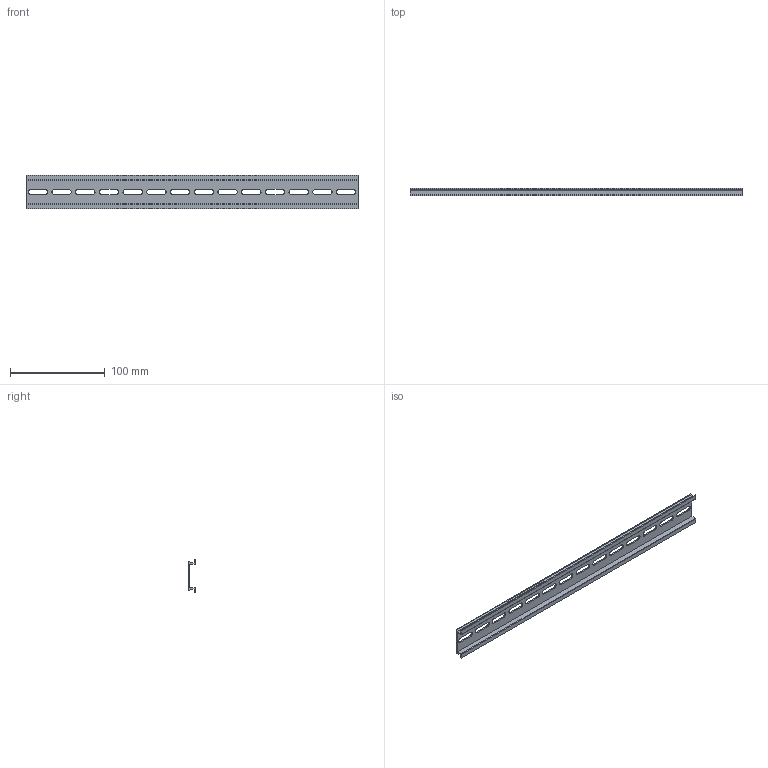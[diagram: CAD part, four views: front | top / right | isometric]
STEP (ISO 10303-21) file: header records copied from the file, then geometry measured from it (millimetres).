
FILE_DESCRIPTION( (''), '2;1');
FILE_NAME ('CVICAD02.15516.DIN-RAIL350_7406.stp','2020-09-01T14:18:28',(''),(''),'spGate 12.6.6','','');
FILE_SCHEMA (('AUTOMOTIVE_DESIGN'));
Length unit declared in the file: millimetre
Bounding box: 350 x 7.5 x 35 mm (x, y, z)
Volume: 24710 mm3; surface area: 33065 mm2
Topology: 1 solids, 1 shells, 76 faces, 222 edges, 148 vertices
Faces by surface type: plane 46, cylinder 30
Entity records: 4317 total; most frequent: CARTESIAN_POINT 446, ORIENTED_EDGE 444, DIRECTION 434, COLOUR_RGB 299, PRESENTATION_STYLE_ASSIGNMENT 299, STYLED_ITEM 299, EDGE_CURVE 222, DRAUGHTING_PRE_DEFINED_CURVE_FONT 222
